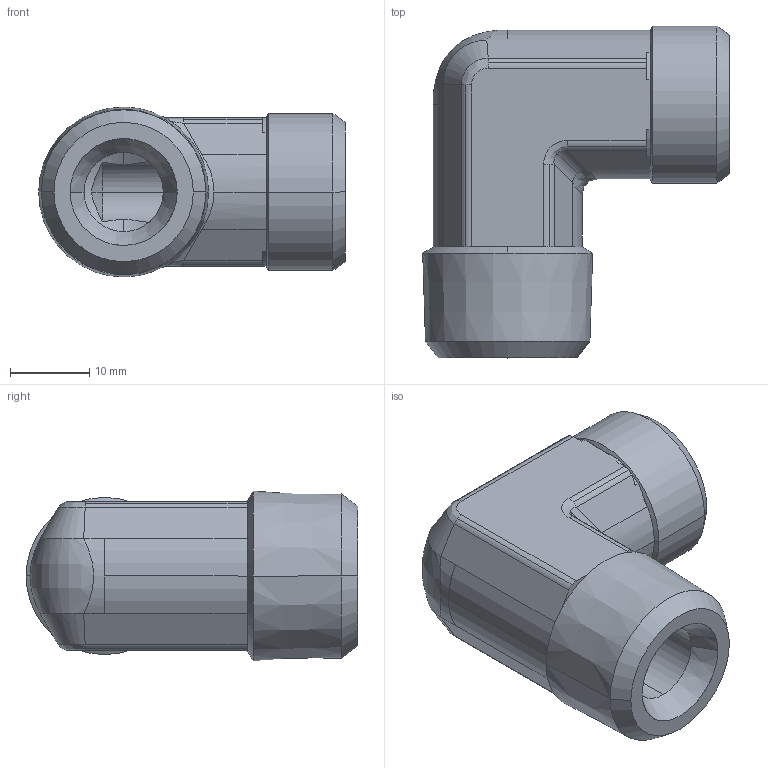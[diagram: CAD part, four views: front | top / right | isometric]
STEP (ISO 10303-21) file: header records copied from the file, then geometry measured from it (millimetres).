
FILE_DESCRIPTION((''),'2;1');
FILE_NAME('102035.stp','2007-10-30T16:35:05',(''),(''),'AutoCAD STEP 2000i','AutoCAD 2000i',', , ');
FILE_SCHEMA(('CONFIG_CONTROL_DESIGN'));
Length unit declared in the file: millimetre
Products named in the file (2): 102035.0; 3090#0
Assembly tree (1 placements, depth 2):
  102035.0
    3090#0
Bounding box: 38.73 x 41.92 x 21.47 mm (x, y, z)
Volume: 13712 mm3; surface area: 5971.4 mm2
Topology: 1 solids, 1 shells, 102 faces, 248 edges, 149 vertices
Faces by surface type: cylinder 40, plane 29, cone 19, bspline 14
Entity records: 3885 total; most frequent: CARTESIAN_POINT 1376, DIRECTION 531, ORIENTED_EDGE 496, EDGE_CURVE 248, AXIS2_PLACEMENT_3D 213, VERTEX_POINT 149, CIRCLE 113, VECTOR 105
